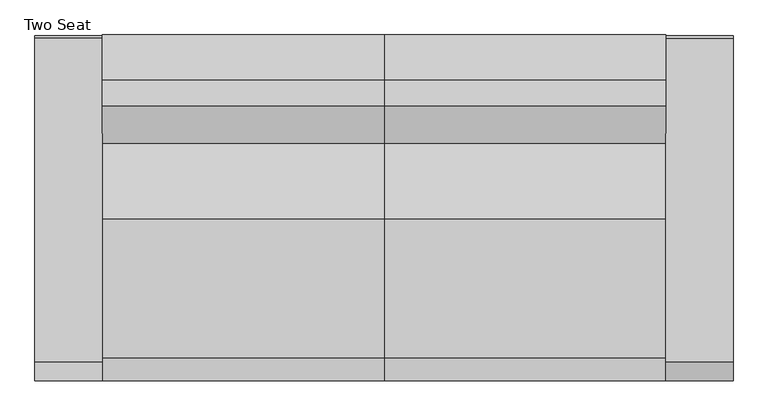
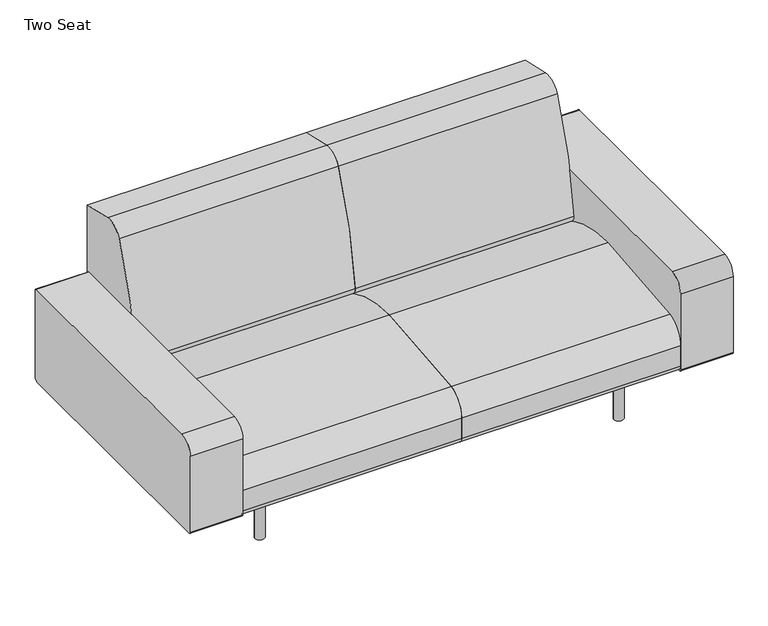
"""IFC4 building model written with IfcOpenShell, lengths in millimetres: furniture geometry, Coalesse_AM_Seating_LoungeChair_Sistema_LegBase_TwoSeat : Two Seat."""

import ifcopenshell
import ifcopenshell.guid

model = None  # the IFC model being written
_history = None  # IfcOwnerHistory: only IFC2X3 demands one
_inside = {}  # id of a spatial element -> (the spatial element, [elements in it])
_under = {}  # id of a project, library or spatial element -> (it, [spatial elements below it])
_declared = {}  # id of a project -> (the project, [libraries it declares])
_typed = {}  # id of a type object -> (the type object, [elements of that type])
_made_of = {}  # id of a material, layer set ... -> (it, [elements and type objects made of it])


def new_model(schema):
    """Start an empty IFC model of exactly this schema.

    Asked for "IFC4X3", IfcOpenShell would pick the latest addendum, in which some entities
    have other attributes; the version numbers below select the first issue.
    IFC2X3 requires an IfcOwnerHistory on every rooted entity: one is made here for all.
    """
    global model, _history
    if schema == "IFC4X3":
        model = ifcopenshell.file(schema_version=(4, 3, 0, 0))
    else:
        model = ifcopenshell.file(schema=schema)
    _inside.clear()
    _under.clear()
    _declared.clear()
    _typed.clear()
    _made_of.clear()
    _history = None
    if model.schema == "IFC2X3":
        org = make("IfcOrganization", Name="unknown")
        user = make(
            "IfcPersonAndOrganization",
            ThePerson=make("IfcPerson", FamilyName="unknown"),
            TheOrganization=org,
        )
        app = make(
            "IfcApplication",
            ApplicationDeveloper=org,
            Version="unknown",
            ApplicationFullName="unknown",
            ApplicationIdentifier="unknown",
        )
        _history = make(
            "IfcOwnerHistory",
            OwningUser=user,
            OwningApplication=app,
            ChangeAction="ADDED",
            CreationDate=0,
        )
    return model


def make(cls, **values):
    """One entity of the class cls with the attributes given. An attribute that is None is left unset."""
    return model.create_entity(
        cls, **{name: value for name, value in values.items() if value is not None}
    )


def rooted(cls, **values):
    """An entity with a GlobalId (a new one), such as an element, a storey or a relation."""
    return make(cls, GlobalId=ifcopenshell.guid.new(), OwnerHistory=_history, **values)


def si_unit(unit_type, name, prefix=None):
    """IfcSIUnit, for example si_unit("LENGTHUNIT", "METRE", prefix="MILLI")."""
    return make("IfcSIUnit", UnitType=unit_type, Prefix=prefix, Name=name)


def assignment(units):
    """IfcUnitAssignment: the units of a project."""
    return None if units is None else make("IfcUnitAssignment", Units=units)


def point(xyz):
    """IfcCartesianPoint."""
    return None if xyz is None else make("IfcCartesianPoint", Coordinates=xyz)


def direction(xyz):
    """IfcDirection."""
    return None if xyz is None else make("IfcDirection", DirectionRatios=xyz)


def frame(location, z_axis=None, x_axis=None):
    """IfcAxis2Placement3D, a coordinate frame: its origin and axes. An axis left out is left unset."""
    return make(
        "IfcAxis2Placement3D",
        Location=point(location),
        Axis=direction(z_axis),
        RefDirection=direction(x_axis),
    )


def frame_2d(location, x_axis=None):
    """IfcAxis2Placement2D, a coordinate frame in the plane: its origin and x axis."""
    return make(
        "IfcAxis2Placement2D", Location=point(location), RefDirection=direction(x_axis)
    )


def origin():
    """The frame at (0, 0, 0) with its axes left unset."""
    return frame((0.0, 0.0, 0.0))


def origin_with_axes():
    """The frame at (0, 0, 0) with the z axis (0, 0, 1) and the x axis (1, 0, 0) written out."""
    return frame((0.0, 0.0, 0.0), z_axis=(0.0, 0.0, 1.0), x_axis=(1.0, 0.0, 0.0))


def place(relative_to, where):
    """IfcLocalPlacement: puts the frame where relative to a parent placement (None: the world)."""
    return make(
        "IfcLocalPlacement", PlacementRelTo=relative_to, RelativePlacement=where
    )


def context(
    kind, dimensions, precision=None, world=None, true_north=None, identifier=None
):
    """IfcGeometricRepresentationContext, for example the 3D "Model" context."""
    return make(
        "IfcGeometricRepresentationContext",
        ContextIdentifier=identifier,
        ContextType=kind,
        CoordinateSpaceDimension=dimensions,
        Precision=precision,
        WorldCoordinateSystem=world,
        TrueNorth=true_north,
    )


def project(units=None, contexts=None):
    """IfcProject with its units and contexts."""
    return rooted(
        "IfcProject",
        Name="project",
        RepresentationContexts=contexts,
        UnitsInContext=assignment(units),
    )


def spatial(cls, under=None, at=None, **own):
    """A site, building, storey or space (cls), placed at a placement, below another one or the project."""
    s = rooted(cls, ObjectPlacement=at, **own)
    if under is not None:
        _under.setdefault(under.id(), (under, []))[1].append(s)
    return s


def polyline(points):
    """IfcPolyline through the points."""
    return make("IfcPolyline", Points=[point(p) for p in points])


def circle_curve(where, radius):
    """IfcCircle in the frame where."""
    return make("IfcCircle", Position=where, Radius=radius)


def trimmed(basis, trim1, trim2, sense, master):
    """IfcTrimmedCurve: the piece of a basis curve between two trims."""
    return make(
        "IfcTrimmedCurve",
        BasisCurve=basis,
        Trim1=trim1,
        Trim2=trim2,
        SenseAgreement=sense,
        MasterRepresentation=master,
    )


def segment(curve, same_sense, transition):
    """IfcCompositeCurveSegment."""
    return make(
        "IfcCompositeCurveSegment",
        Transition=transition,
        SameSense=same_sense,
        ParentCurve=curve,
    )


def composite_curve(segments, self_intersect=None):
    """IfcCompositeCurve: segments joined end to end."""
    return make("IfcCompositeCurve", Segments=segments, SelfIntersect=self_intersect)


def outline(outer, holes=None, kind="AREA"):
    """IfcArbitraryClosedProfileDef: a profile drawn as a closed curve; with holes, ...WithVoids."""
    if holes is None:
        return make("IfcArbitraryClosedProfileDef", ProfileType=kind, OuterCurve=outer)
    return make(
        "IfcArbitraryProfileDefWithVoids",
        ProfileType=kind,
        OuterCurve=outer,
        InnerCurves=holes,
    )


def extrude(swept, where, along, depth):
    """IfcExtrudedAreaSolid: the profile swept, set in the frame where, extruded along a direction by depth."""
    return make(
        "IfcExtrudedAreaSolid",
        SweptArea=swept,
        Position=where,
        ExtrudedDirection=direction(along),
        Depth=depth,
    )


def shape(context_of_items, identifier, shape_type, items):
    """IfcShapeRepresentation: the items that make up one representation, for example the "Body"."""
    return make(
        "IfcShapeRepresentation",
        ContextOfItems=context_of_items,
        RepresentationIdentifier=identifier,
        RepresentationType=shape_type,
        Items=items,
    )


def source(mapping_origin, context_of_items, identifier, shape_type, items):
    """IfcRepresentationMap: a shape defined once, which mapped items show again and again."""
    return make(
        "IfcRepresentationMap",
        MappingOrigin=mapping_origin,
        MappedRepresentation=shape(context_of_items, identifier, shape_type, items),
    )


def transform(
    local_origin,
    x_axis=None,
    y_axis=None,
    z_axis=None,
    scale=None,
    scale2=None,
    scale3=None,
    uniform=True,
):
    """IfcCartesianTransformationOperator3D, or its non-uniform kind. x_axis, y_axis, z_axis: its Axis1, 2, 3."""
    if uniform:
        return make(
            "IfcCartesianTransformationOperator3D",
            Axis1=direction(x_axis),
            Axis2=direction(y_axis),
            LocalOrigin=point(local_origin),
            Scale=scale,
            Axis3=direction(z_axis),
        )
    return make(
        "IfcCartesianTransformationOperator3DnonUniform",
        Axis1=direction(x_axis),
        Axis2=direction(y_axis),
        LocalOrigin=point(local_origin),
        Scale=scale,
        Axis3=direction(z_axis),
        Scale2=scale2,
        Scale3=scale3,
    )


def mapped(mapping_source, mapping_target):
    """IfcMappedItem: shows the shape of a source again, moved by a transform."""
    return make(
        "IfcMappedItem", MappingSource=mapping_source, MappingTarget=mapping_target
    )


def made_of(thing, what):
    """Note that an element or type object is made of a material, layer set ...; save() writes the relation."""
    if what is not None:
        _made_of.setdefault(what.id(), (what, []))[1].append(thing)
    return thing


def element(
    cls,
    number,
    at=None,
    inside=None,
    cuts=None,
    type_object=None,
    material=None,
    context=None,
    identifier="Body",
    shape_type=None,
    held_by="IfcProductDefinitionShape",
    body=None,
    shapes=None,
    **own,
):
    """One element of the class cls, such as IfcWall. Its Tag is "e" and its number.

    at: its placement. inside: the storey or other place that contains it. cuts: it is an
    opening in that element (IfcRelVoidsElement). A single representation is given by context,
    identifier, shape_type and body (its items); several are given by shapes. held_by: the class
    of the entity that holds the representations. save() writes the other relations.
    """
    e = rooted(cls, Tag="e%d" % number, ObjectPlacement=at, **own)
    if body is not None:
        shapes = [shape(context, identifier, shape_type, body)]
    if shapes is not None:
        e.Representation = make(held_by, Representations=shapes)
    if inside is not None:
        _inside.setdefault(inside.id(), (inside, []))[1].append(e)
    if cuts is not None:
        rooted(
            "IfcRelVoidsElement", RelatingBuildingElement=cuts, RelatedOpeningElement=e
        )
    if type_object is not None:
        _typed.setdefault(type_object.id(), (type_object, []))[1].append(e)
    return made_of(e, material)


def aggregate(whole, parts):
    """IfcRelAggregates: a whole, such as a stair, and the parts it consists of."""
    return rooted("IfcRelAggregates", RelatingObject=whole, RelatedObjects=parts)


def save(model, path):
    """Write the relations noted so far, then the file.

    IfcRelAggregates (storeys below a building ...), IfcRelContainedInSpatialStructure (elements
    in a storey), IfcRelDefinesByType, IfcRelAssociatesMaterial and IfcRelDeclares: one each for
    every whole, place, type object, material and project.
    """
    for whole, parts in _under.values():
        aggregate(whole, parts)
    for where, things in _inside.values():
        rooted(
            "IfcRelContainedInSpatialStructure",
            RelatedElements=things,
            RelatingStructure=where,
        )
    for kind, things in _typed.values():
        rooted("IfcRelDefinesByType", RelatedObjects=things, RelatingType=kind)
    for what, things in _made_of.values():
        rooted("IfcRelAssociatesMaterial", RelatedObjects=things, RelatingMaterial=what)
    for by, libraries in _declared.values():
        rooted("IfcRelDeclares", RelatingContext=by, RelatedDefinitions=libraries)
    model.write(path)


def two_seat_d21a2207(model_context):
    return source(origin(), model_context, "Body", "SweptSolid", [
        extrude(outline(composite_curve([segment(trimmed(circle_curve(frame_2d((989.1765227, 335.9943389)), 6.096), [point((995.2725227, 335.9943389))], [point((983.0805227, 335.9943389))], False, "CARTESIAN"), True, "CONTINUOUS"), segment(trimmed(circle_curve(frame_2d((989.1765227, 335.9943389)), 6.096), [point((983.0805227, 335.9943389))], [point((995.2725227, 335.9943389))], False, "CARTESIAN"), True, "CONTINUOUS")], self_intersect=False)), origin_with_axes(), (0.0, 0.0, 1.0), 4.3662291),
        extrude(outline(composite_curve([segment(trimmed(circle_curve(frame_2d((989.1765227, -327.2630889)), 6.096), [point((995.2725227, -327.2630889))], [point((983.0805227, -327.2630889))], False, "CARTESIAN"), True, "CONTINUOUS"), segment(trimmed(circle_curve(frame_2d((989.1765227, -327.2630889)), 6.096), [point((983.0805227, -327.2630889))], [point((995.2725227, -327.2630889))], False, "CARTESIAN"), True, "CONTINUOUS")], self_intersect=False)), origin_with_axes(), (0.0, 0.0, 1.0), 4.3662291),
        extrude(outline(composite_curve([segment(polyline([(157.0399209, 1001.756375), (201.7356243, 1001.756375)]), True, "CONTINUOUS"), segment(trimmed(circle_curve(frame_2d((201.7356243, 998.708375)), 3.048), [point((201.7356243, 1001.756375))], [point((204.7836243, 998.708375))], False, "CARTESIAN"), True, "CONTINUOUS"), segment(polyline([(204.7836243, 998.708375), (204.7836243, 979.366199)]), True, "CONTINUOUS"), segment(trimmed(circle_curve(frame_2d((201.7356243, 979.366199)), 3.048), [point((204.7836243, 979.366199))], [point((201.7356243, 976.318199))], False, "CARTESIAN"), True, "CONTINUOUS"), segment(polyline([(201.7356243, 976.318199), (157.1249936, 976.318199)]), True, "CONTINUOUS"), segment(trimmed(circle_curve(frame_2d((157.1249936, 979.4512718)), 3.1330728), [point((157.1249936, 976.318199))], [point((153.9919209, 979.4512718))], False, "CARTESIAN"), True, "CONTINUOUS"), segment(polyline([(153.9919209, 979.4512718), (153.9919209, 998.708375)]), True, "CONTINUOUS"), segment(trimmed(circle_curve(frame_2d((157.0399209, 998.708375)), 3.048), [point((153.9919209, 998.708375))], [point((157.0399209, 1001.756375))], False, "CARTESIAN"), True, "CONTINUOUS")], self_intersect=False)), frame((0.0, 222.3519802, 0.0), z_axis=(0.0, 1.0, 0.0), x_axis=(0.0, 0.0, 1.0)), (0.0, 0.0, 1.0), 92.6273161),
        extrude(outline(composite_curve([segment(polyline([(157.0399209, 1001.756375), (201.7356243, 1001.756375)]), True, "CONTINUOUS"), segment(trimmed(circle_curve(frame_2d((201.7356243, 998.708375)), 3.048), [point((201.7356243, 1001.756375))], [point((204.7836243, 998.708375))], False, "CARTESIAN"), True, "CONTINUOUS"), segment(polyline([(204.7836243, 998.708375), (204.7836243, 979.366199)]), True, "CONTINUOUS"), segment(trimmed(circle_curve(frame_2d((201.7356243, 979.366199)), 3.048), [point((204.7836243, 979.366199))], [point((201.7356243, 976.318199))], False, "CARTESIAN"), True, "CONTINUOUS"), segment(polyline([(201.7356243, 976.318199), (157.1249936, 976.318199)]), True, "CONTINUOUS"), segment(trimmed(circle_curve(frame_2d((157.1249936, 979.4512718)), 3.1330728), [point((157.1249936, 976.318199))], [point((153.9919209, 979.4512718))], False, "CARTESIAN"), True, "CONTINUOUS"), segment(polyline([(153.9919209, 979.4512718), (153.9919209, 998.708375)]), True, "CONTINUOUS"), segment(trimmed(circle_curve(frame_2d((157.0399209, 998.708375)), 3.048), [point((153.9919209, 998.708375))], [point((157.0399209, 1001.756375))], False, "CARTESIAN"), True, "CONTINUOUS")], self_intersect=False)), frame((0.0, -314.9792963, 0.0), z_axis=(0.0, 1.0, 0.0), x_axis=(0.0, 0.0, 1.0)), (0.0, 0.0, 1.0), 92.6273161),
        extrude(outline(composite_curve([segment(trimmed(circle_curve(frame_2d((176.3356606, 966.5259944)), 3.048), [point((179.3836606, 966.5259944))], [point((176.3356606, 963.4779944))], False, "CARTESIAN"), True, "CONTINUOUS"), segment(polyline([(176.3356606, 963.4779944), (157.0399209, 963.4779944)]), True, "CONTINUOUS"), segment(trimmed(circle_curve(frame_2d((157.0399209, 966.5259944)), 3.048), [point((157.0399209, 963.4779944))], [point((153.9919209, 966.5259944))], False, "CARTESIAN"), True, "CONTINUOUS"), segment(polyline([(153.9919209, 966.5259944), (153.9919209, 1011.2135501)]), True, "CONTINUOUS"), segment(trimmed(circle_curve(frame_2d((157.056462, 1011.2135501)), 3.0645412), [point((153.9919209, 1011.2135501))], [point((157.056462, 1014.2780913))], False, "CARTESIAN"), True, "CONTINUOUS"), segment(polyline([(157.056462, 1014.2780913), (176.3356606, 1014.2780913)]), True, "CONTINUOUS"), segment(trimmed(circle_curve(frame_2d((176.3356606, 1011.2300913)), 3.048), [point((176.3356606, 1014.2780913))], [point((179.3836606, 1011.2300913))], False, "CARTESIAN"), True, "CONTINUOUS"), segment(polyline([(179.3836606, 1011.2300913), (179.3836606, 966.5259944)]), True, "CONTINUOUS")], self_intersect=False)), frame((0.0, -222.3519802, 0.0), z_axis=(0.0, 1.0, 0.0), x_axis=(0.0, 0.0, 1.0)), (0.0, 0.0, 1.0), 444.7039604),
        extrude(outline(composite_curve([segment(trimmed(circle_curve(frame_2d((989.1765227, 332.3095741)), 16.51), [point((1005.6865227, 332.3095741))], [point((972.6665227, 332.3095741))], False, "CARTESIAN"), True, "CONTINUOUS"), segment(trimmed(circle_curve(frame_2d((989.1765227, 332.3095741)), 16.51), [point((972.6665227, 332.3095741))], [point((1005.6865227, 332.3095741))], False, "CARTESIAN"), True, "CONTINUOUS")], self_intersect=False)), frame((0.0, 0.0, 4.3662291), z_axis=(0.0, 0.0, 1.0), x_axis=(1.0, 0.0, 0.0)), (0.0, 0.0, 1.0), 200.1037709),
        extrude(outline(composite_curve([segment(trimmed(circle_curve(frame_2d((988.7796477, -327.5470741)), 16.51), [point((1005.2896477, -327.5470741))], [point((972.2696477, -327.5470741))], False, "CARTESIAN"), True, "CONTINUOUS"), segment(trimmed(circle_curve(frame_2d((988.7796477, -327.5470741)), 16.51), [point((972.2696477, -327.5470741))], [point((1005.2896477, -327.5470741))], False, "CARTESIAN"), True, "CONTINUOUS")], self_intersect=False)), frame((0.0, 0.0, 4.3662291), z_axis=(0.0, 0.0, 1.0), x_axis=(1.0, 0.0, 0.0)), (0.0, 0.0, 1.0), 200.1037709),
        extrude(outline(composite_curve([segment(polyline([(-461.2704381, 212.4103341), (-461.2704381, 487.0244726)]), True, "CONTINUOUS"), segment(trimmed(circle_curve(frame_2d((-410.4704381, 487.0244726)), 50.8), [point((-461.2704381, 487.0244726))], [point((-410.4704381, 537.8244726))], False, "CARTESIAN"), True, "CONTINUOUS"), segment(polyline([(-410.4704381, 537.8244726), (450.1139321, 537.8244726)]), True, "CONTINUOUS"), segment(trimmed(circle_curve(frame_2d((450.1139321, 530.2044726)), 7.62), [point((450.1139321, 537.8244726))], [point((457.7339321, 530.2044726))], False, "CARTESIAN"), True, "CONTINUOUS"), segment(polyline([(457.7339321, 530.2044726), (457.7339321, 217.4903341)]), True, "CONTINUOUS"), segment(trimmed(circle_curve(frame_2d((445.0339321, 217.4903341)), 12.7), [point((457.7339321, 217.4903341))], [point((445.0339321, 204.7903341))], False, "CARTESIAN"), True, "CONTINUOUS"), segment(polyline([(445.0339321, 204.7903341), (-453.6504381, 204.7903341)]), True, "CONTINUOUS"), segment(trimmed(circle_curve(frame_2d((-453.6504381, 212.4103341)), 7.62), [point((-453.6504381, 204.7903341))], [point((-461.2704381, 212.4103341))], False, "CARTESIAN"), True, "CONTINUOUS")], self_intersect=False)), frame((-554.3698424, 0.0, 0.0), z_axis=(1.0, 0.0, 0.0), x_axis=(0.0, 1.0, 0.0)), (0.0, 0.0, 1.0), 179.5663651),
        extrude(outline(composite_curve([segment(polyline([(459.4795619, 775.8234697), (459.4795619, 228.1929806)]), True, "CONTINUOUS"), segment(trimmed(circle_curve(frame_2d((191.495971, 228.1929806)), 267.983591), [point((459.4795619, 228.1929806))], [point((458.9860775, 211.937276))], False, "CARTESIAN"), True, "CONTINUOUS"), segment(polyline([(458.9860775, 211.937276), (183.8457951, 360.6719742)]), True, "CONTINUOUS"), segment(trimmed(circle_curve(frame_2d((195.9245701, 383.0161724)), 25.4), [point((183.8457951, 360.6719742))], [point((170.6161698, 385.1713698))], False, "CARTESIAN"), True, "CONTINUOUS"), segment(trimmed(circle_curve(frame_2d((1327.5544182, 286.6495247)), 1161.1256023), [point((170.6161698, 385.1713698))], [point((271.1088001, 768.4537592))], False, "CARTESIAN"), True, "CONTINUOUS"), segment(trimmed(circle_curve(frame_2d((326.5730192, 743.158661)), 60.96), [point((271.1088001, 768.4537592))], [point((339.9143278, 802.6408523))], False, "CARTESIAN"), True, "CONTINUOUS"), segment(polyline([(339.9143278, 802.6408523), (459.4795619, 775.8234697)]), True, "CONTINUOUS")], self_intersect=False)), frame((-374.8034773, 0.0, 0.0), z_axis=(1.0, 0.0, 0.0), x_axis=(0.0, 1.0, 0.0)), (0.0, 0.0, 1.0), 749.3),
        extrude(outline(composite_curve([segment(trimmed(circle_curve(frame_2d((-438.9184381, 226.822)), 22.352), [point((-438.9184381, 204.47))], [point((-461.2704381, 226.822))], False, "CARTESIAN"), True, "CONTINUOUS"), segment(polyline([(-461.2704381, 226.822), (-461.2704381, 301.4421993)]), True, "CONTINUOUS"), segment(trimmed(circle_curve(frame_2d((-385.0704381, 301.4421993)), 76.2), [point((-461.2704381, 301.4421993))], [point((-398.9277015, 376.3716077))], False, "CARTESIAN"), True, "CONTINUOUS"), segment(trimmed(circle_curve(frame_2d((2.2103559, -1792.6740646)), 2205.8265729), [point((-398.9277015, 376.3716077))], [point((-31.1968175, 412.8995185))], False, "CARTESIAN"), True, "CONTINUOUS"), segment(trimmed(circle_curve(frame_2d((-24.5128424, -28.3829182)), 441.333054), [point((-31.1968175, 412.8995185))], [point((184.5757008, 360.2774035))], False, "CARTESIAN"), True, "CONTINUOUS"), segment(polyline([(184.5757008, 360.2774035), (458.9860775, 211.937276)]), True, "CONTINUOUS"), segment(trimmed(circle_curve(frame_2d((442.3266309, 226.7871991)), 22.3171991), [point((458.9860775, 211.937276))], [point((442.3266309, 204.47))], False, "CARTESIAN"), True, "CONTINUOUS"), segment(polyline([(442.3266309, 204.47), (-438.9184381, 204.47)]), True, "CONTINUOUS")], self_intersect=False)), frame((-374.8034773, 0.0, 0.0), z_axis=(1.0, 0.0, 0.0), x_axis=(0.0, 1.0, 0.0)), (0.0, 0.0, 1.0), 749.3),
        extrude(outline(composite_curve([segment(polyline([(-461.2704381, 212.4103341), (-461.2704381, 487.0244726)]), True, "CONTINUOUS"), segment(trimmed(circle_curve(frame_2d((-410.4704381, 487.0244726)), 50.8), [point((-461.2704381, 487.0244726))], [point((-410.4704381, 537.8244726))], False, "CARTESIAN"), True, "CONTINUOUS"), segment(polyline([(-410.4704381, 537.8244726), (450.1139321, 537.8244726)]), True, "CONTINUOUS"), segment(trimmed(circle_curve(frame_2d((450.1139321, 530.2044726)), 7.62), [point((450.1139321, 537.8244726))], [point((457.7339321, 530.2044726))], False, "CARTESIAN"), True, "CONTINUOUS"), segment(polyline([(457.7339321, 530.2044726), (457.7339321, 217.4903341)]), True, "CONTINUOUS"), segment(trimmed(circle_curve(frame_2d((445.0339321, 217.4903341)), 12.7), [point((457.7339321, 217.4903341))], [point((445.0339321, 204.7903341))], False, "CARTESIAN"), True, "CONTINUOUS"), segment(polyline([(445.0339321, 204.7903341), (-453.6504381, 204.7903341)]), True, "CONTINUOUS"), segment(trimmed(circle_curve(frame_2d((-453.6504381, 212.4103341)), 7.62), [point((-453.6504381, 204.7903341))], [point((-461.2704381, 212.4103341))], False, "CARTESIAN"), True, "CONTINUOUS")], self_intersect=False)), frame((1123.7965227, 0.0, 0.0), z_axis=(1.0, 0.0, 0.0), x_axis=(0.0, 1.0, 0.0)), (0.0, 0.0, 1.0), 179.5663651),
        extrude(outline(composite_curve([segment(polyline([(459.4795619, 775.8234697), (459.4795619, 228.1929806)]), True, "CONTINUOUS"), segment(trimmed(circle_curve(frame_2d((191.495971, 228.1929806)), 267.983591), [point((459.4795619, 228.1929806))], [point((458.9860775, 211.937276))], False, "CARTESIAN"), True, "CONTINUOUS"), segment(polyline([(458.9860775, 211.937276), (183.8457951, 360.6719742)]), True, "CONTINUOUS"), segment(trimmed(circle_curve(frame_2d((195.9245701, 383.0161724)), 25.4), [point((183.8457951, 360.6719742))], [point((170.6161698, 385.1713698))], False, "CARTESIAN"), True, "CONTINUOUS"), segment(trimmed(circle_curve(frame_2d((1327.5544182, 286.6495247)), 1161.1256023), [point((170.6161698, 385.1713698))], [point((271.1088001, 768.4537592))], False, "CARTESIAN"), True, "CONTINUOUS"), segment(trimmed(circle_curve(frame_2d((326.5730192, 743.158661)), 60.96), [point((271.1088001, 768.4537592))], [point((339.9143278, 802.6408523))], False, "CARTESIAN"), True, "CONTINUOUS"), segment(polyline([(339.9143278, 802.6408523), (459.4795619, 775.8234697)]), True, "CONTINUOUS")], self_intersect=False)), frame((374.4965227, 0.0, 0.0), z_axis=(1.0, 0.0, 0.0), x_axis=(0.0, 1.0, 0.0)), (0.0, 0.0, 1.0), 749.3),
        extrude(outline(composite_curve([segment(trimmed(circle_curve(frame_2d((-438.9184381, 226.822)), 22.352), [point((-438.9184381, 204.47))], [point((-461.2704381, 226.822))], False, "CARTESIAN"), True, "CONTINUOUS"), segment(polyline([(-461.2704381, 226.822), (-461.2704381, 301.4421993)]), True, "CONTINUOUS"), segment(trimmed(circle_curve(frame_2d((-385.0704381, 301.4421993)), 76.2), [point((-461.2704381, 301.4421993))], [point((-398.9277015, 376.3716077))], False, "CARTESIAN"), True, "CONTINUOUS"), segment(trimmed(circle_curve(frame_2d((2.2103559, -1792.6740646)), 2205.8265729), [point((-398.9277015, 376.3716077))], [point((-31.1968175, 412.8995185))], False, "CARTESIAN"), True, "CONTINUOUS"), segment(trimmed(circle_curve(frame_2d((-24.5128424, -28.3829182)), 441.333054), [point((-31.1968175, 412.8995185))], [point((184.5757008, 360.2774035))], False, "CARTESIAN"), True, "CONTINUOUS"), segment(polyline([(184.5757008, 360.2774035), (458.9860775, 211.937276)]), True, "CONTINUOUS"), segment(trimmed(circle_curve(frame_2d((442.3266309, 226.7871991)), 22.3171991), [point((458.9860775, 211.937276))], [point((442.3266309, 204.47))], False, "CARTESIAN"), True, "CONTINUOUS"), segment(polyline([(442.3266309, 204.47), (-438.9184381, 204.47)]), True, "CONTINUOUS")], self_intersect=False)), frame((374.4965227, 0.0, 0.0), z_axis=(1.0, 0.0, 0.0), x_axis=(0.0, 1.0, 0.0)), (0.0, 0.0, 1.0), 749.3),
        extrude(outline(composite_curve([segment(trimmed(circle_curve(frame_2d((-240.1834773, 335.9943389)), 6.096), [point((-246.2794773, 335.9943389))], [point((-234.0874773, 335.9943389))], False, "CARTESIAN"), True, "CONTINUOUS"), segment(trimmed(circle_curve(frame_2d((-240.1834773, 335.9943389)), 6.096), [point((-234.0874773, 335.9943389))], [point((-246.2794773, 335.9943389))], False, "CARTESIAN"), True, "CONTINUOUS")], self_intersect=False)), origin_with_axes(), (0.0, 0.0, 1.0), 4.3662291),
        extrude(outline(composite_curve([segment(trimmed(circle_curve(frame_2d((-240.1834773, -327.2630889)), 6.096), [point((-246.2794773, -327.2630889))], [point((-234.0874773, -327.2630889))], False, "CARTESIAN"), True, "CONTINUOUS"), segment(trimmed(circle_curve(frame_2d((-240.1834773, -327.2630889)), 6.096), [point((-234.0874773, -327.2630889))], [point((-246.2794773, -327.2630889))], False, "CARTESIAN"), True, "CONTINUOUS")], self_intersect=False)), origin_with_axes(), (0.0, 0.0, 1.0), 4.3662291),
        extrude(outline(composite_curve([segment(trimmed(circle_curve(frame_2d((157.0399209, -249.7153296)), 3.048), [point((157.0399209, -252.7633296))], [point((153.9919209, -249.7153296))], False, "CARTESIAN"), True, "CONTINUOUS"), segment(polyline([(153.9919209, -249.7153296), (153.9919209, -230.4582264)]), True, "CONTINUOUS"), segment(trimmed(circle_curve(frame_2d((157.1249936, -230.4582264)), 3.1330728), [point((153.9919209, -230.4582264))], [point((157.1249936, -227.3251537))], False, "CARTESIAN"), True, "CONTINUOUS"), segment(polyline([(157.1249936, -227.3251537), (201.7356243, -227.3251537)]), True, "CONTINUOUS"), segment(trimmed(circle_curve(frame_2d((201.7356243, -230.3731537)), 3.048), [point((201.7356243, -227.3251537))], [point((204.7836243, -230.3731537))], False, "CARTESIAN"), True, "CONTINUOUS"), segment(polyline([(204.7836243, -230.3731537), (204.7836243, -249.7153296)]), True, "CONTINUOUS"), segment(trimmed(circle_curve(frame_2d((201.7356243, -249.7153296)), 3.048), [point((204.7836243, -249.7153296))], [point((201.7356243, -252.7633296))], False, "CARTESIAN"), True, "CONTINUOUS"), segment(polyline([(201.7356243, -252.7633296), (157.0399209, -252.7633296)]), True, "CONTINUOUS")], self_intersect=False)), frame((0.0, 222.3519802, 0.0), z_axis=(0.0, 1.0, 0.0), x_axis=(0.0, 0.0, 1.0)), (0.0, 0.0, 1.0), 92.6273161),
        extrude(outline(composite_curve([segment(trimmed(circle_curve(frame_2d((157.0399209, -249.7153296)), 3.048), [point((157.0399209, -252.7633296))], [point((153.9919209, -249.7153296))], False, "CARTESIAN"), True, "CONTINUOUS"), segment(polyline([(153.9919209, -249.7153296), (153.9919209, -230.4582264)]), True, "CONTINUOUS"), segment(trimmed(circle_curve(frame_2d((157.1249936, -230.4582264)), 3.1330728), [point((153.9919209, -230.4582264))], [point((157.1249936, -227.3251537))], False, "CARTESIAN"), True, "CONTINUOUS"), segment(polyline([(157.1249936, -227.3251537), (201.7356243, -227.3251537)]), True, "CONTINUOUS"), segment(trimmed(circle_curve(frame_2d((201.7356243, -230.3731537)), 3.048), [point((201.7356243, -227.3251537))], [point((204.7836243, -230.3731537))], False, "CARTESIAN"), True, "CONTINUOUS"), segment(polyline([(204.7836243, -230.3731537), (204.7836243, -249.7153296)]), True, "CONTINUOUS"), segment(trimmed(circle_curve(frame_2d((201.7356243, -249.7153296)), 3.048), [point((204.7836243, -249.7153296))], [point((201.7356243, -252.7633296))], False, "CARTESIAN"), True, "CONTINUOUS"), segment(polyline([(201.7356243, -252.7633296), (157.0399209, -252.7633296)]), True, "CONTINUOUS")], self_intersect=False)), frame((0.0, -314.9792963, 0.0), z_axis=(0.0, 1.0, 0.0), x_axis=(0.0, 0.0, 1.0)), (0.0, 0.0, 1.0), 92.6273161),
        extrude(outline(composite_curve([segment(polyline([(179.3836606, -217.532949), (179.3836606, -262.2370459)]), True, "CONTINUOUS"), segment(trimmed(circle_curve(frame_2d((176.3356606, -262.2370459)), 3.048), [point((179.3836606, -262.2370459))], [point((176.3356606, -265.2850459))], False, "CARTESIAN"), True, "CONTINUOUS"), segment(polyline([(176.3356606, -265.2850459), (157.056462, -265.2850459)]), True, "CONTINUOUS"), segment(trimmed(circle_curve(frame_2d((157.056462, -262.2205047)), 3.0645412), [point((157.056462, -265.2850459))], [point((153.9919209, -262.2205047))], False, "CARTESIAN"), True, "CONTINUOUS"), segment(polyline([(153.9919209, -262.2205047), (153.9919209, -217.532949)]), True, "CONTINUOUS"), segment(trimmed(circle_curve(frame_2d((157.0399209, -217.532949)), 3.048), [point((153.9919209, -217.532949))], [point((157.0399209, -214.484949))], False, "CARTESIAN"), True, "CONTINUOUS"), segment(polyline([(157.0399209, -214.484949), (176.3356606, -214.484949)]), True, "CONTINUOUS"), segment(trimmed(circle_curve(frame_2d((176.3356606, -217.532949)), 3.048), [point((176.3356606, -214.484949))], [point((179.3836606, -217.532949))], False, "CARTESIAN"), True, "CONTINUOUS")], self_intersect=False)), frame((0.0, -222.3519802, 0.0), z_axis=(0.0, 1.0, 0.0), x_axis=(0.0, 0.0, 1.0)), (0.0, 0.0, 1.0), 444.7039604),
        extrude(outline(composite_curve([segment(trimmed(circle_curve(frame_2d((-240.1834773, 332.3095741)), 16.51), [point((-256.6934773, 332.3095741))], [point((-223.6734773, 332.3095741))], False, "CARTESIAN"), True, "CONTINUOUS"), segment(trimmed(circle_curve(frame_2d((-240.1834773, 332.3095741)), 16.51), [point((-223.6734773, 332.3095741))], [point((-256.6934773, 332.3095741))], False, "CARTESIAN"), True, "CONTINUOUS")], self_intersect=False)), frame((0.0, 0.0, 4.3662291), z_axis=(0.0, 0.0, 1.0), x_axis=(1.0, 0.0, 0.0)), (0.0, 0.0, 1.0), 200.1037709),
        extrude(outline(composite_curve([segment(trimmed(circle_curve(frame_2d((-239.7866023, -327.5470741)), 16.51), [point((-256.2966023, -327.5470741))], [point((-223.2766023, -327.5470741))], False, "CARTESIAN"), True, "CONTINUOUS"), segment(trimmed(circle_curve(frame_2d((-239.7866023, -327.5470741)), 16.51), [point((-223.2766023, -327.5470741))], [point((-256.2966023, -327.5470741))], False, "CARTESIAN"), True, "CONTINUOUS")], self_intersect=False)), frame((0.0, 0.0, 4.3662291), z_axis=(0.0, 0.0, 1.0), x_axis=(1.0, 0.0, 0.0)), (0.0, 0.0, 1.0), 200.1037709),
    ])


if __name__ == "__main__":
    model = new_model("IFC4")
    model_context = context("Model", 3, world=origin())
    ifc_project = project(units=[si_unit("LENGTHUNIT", "METRE", prefix="MILLI")], contexts=[model_context])
    site = spatial("IfcSite", under=ifc_project)
    building = spatial("IfcBuilding", under=site)
    placement = place(None, origin())
    two_seat_shape = two_seat_d21a2207(model_context)
    element("IfcFurniture", 1, ObjectType="Coalesse_AM_Seating_LoungeChair_Sistema_LegBase_TwoSeat : Two Seat", at=placement, inside=building, context=model_context, shape_type="MappedRepresentation", body=[
        mapped(two_seat_shape, transform((0.0, 0.0, 0.0), x_axis=(1.0, 0.0, 0.0), y_axis=(0.0, 1.0, 0.0), z_axis=(0.0, 0.0, 1.0))),
    ])
    save(model, "model.ifc")
